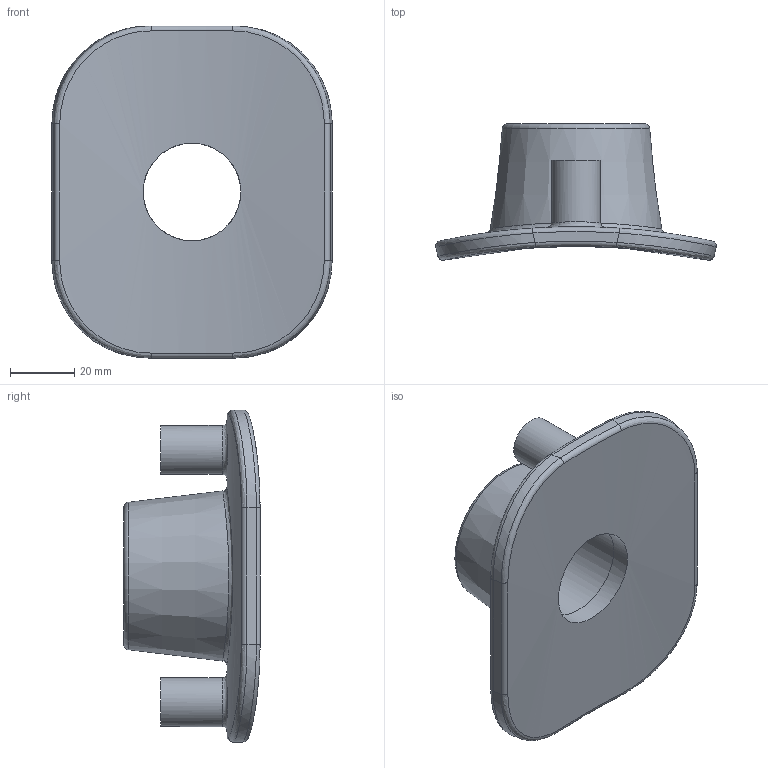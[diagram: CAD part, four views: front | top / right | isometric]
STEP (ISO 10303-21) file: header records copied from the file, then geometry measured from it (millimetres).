
FILE_DESCRIPTION(/* description */ ('PLASSON SENSOR ADAPTOR 1'''''),/* implementation_level */ '2;1');
FILE_NAME(/* name */ 'C:\Dropbox\KIMPROJECTS-Inventor\99-16-3568-Processing\ElectroFusion Fittings\24.01.19\493803\493803400010_493803900010.ipt.stp',/* time_stamp */ '2019-01-24T13:53:53+02:00',/* author */ ('KIM'),/* organization */ (''),/* preprocessor_version */ 'ST-DEVELOPER v15.6',/* originating_system */ 'Autodesk Inventor 2015',/* authorisation */ '');
FILE_SCHEMA (('AUTOMOTIVE_DESIGN { 1 0 10303 214 3 1 1 }'));
Length unit declared in the file: millimetre
Products named in the file (1): 493803400010_493803900010
Bounding box: 86.97 x 42.29 x 103 mm (x, y, z)
Volume: 90708.3 mm3; surface area: 26300.5 mm2
Topology: 1 solids, 1 shells, 39 faces, 84 edges, 50 vertices
Faces by surface type: cylinder 13, bspline 12, plane 7, torus 6, cone 1
Full cylindrical faces by diameter (mm): 15.146 x2, 30.291 x1
Entity records: 1877 total; most frequent: CARTESIAN_POINT 1073, ORIENTED_EDGE 148, DIRECTION 139, EDGE_CURVE 74, AXIS2_PLACEMENT_3D 61, EDGE_LOOP 50, VERTEX_POINT 46, STYLED_ITEM 40
